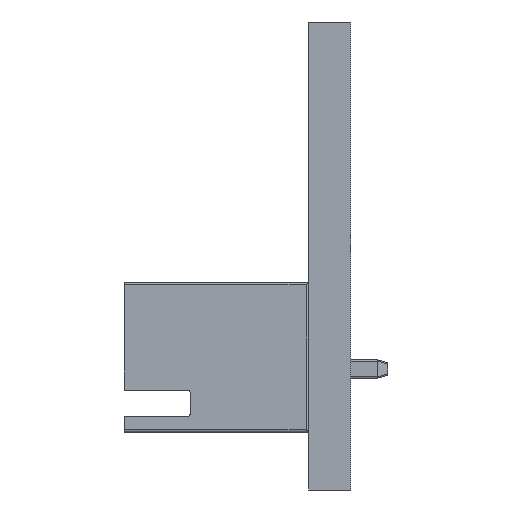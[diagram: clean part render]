
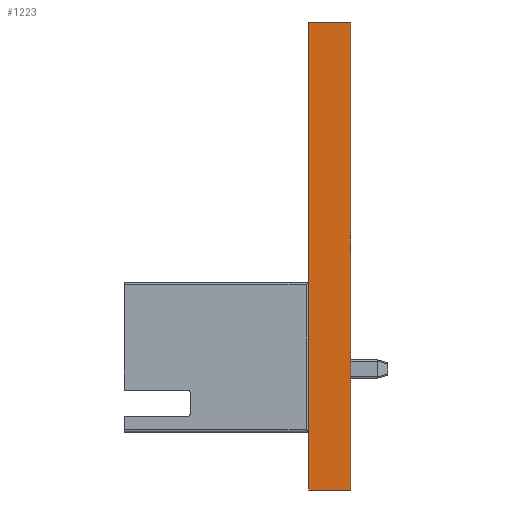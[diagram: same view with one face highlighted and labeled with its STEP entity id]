
A CAD part, left-side view. The second image highlights one B-rep face of the part: STEP entity #1223.
In plain terms, the highlighted planar face has unit normal (-1, 0, 0).
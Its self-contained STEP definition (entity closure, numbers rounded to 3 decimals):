
#47 = PLANE('',#48);
#48 = AXIS2_PLACEMENT_3D('',#49,#50,#51);
#49 = CARTESIAN_POINT('',(0.,0.,0.));
#50 = DIRECTION('',(-0.,-1.,-0.));
#51 = DIRECTION('',(0.,0.,-1.));
#160 = VERTEX_POINT('',#161);
#161 = CARTESIAN_POINT('',(-9.322,0.,8.877));
#175 = PLANE('',#176);
#176 = AXIS2_PLACEMENT_3D('',#177,#178,#179);
#177 = CARTESIAN_POINT('',(9.322,0.,8.877));
#178 = DIRECTION('',(0.,0.,1.));
#179 = DIRECTION('',(-1.,0.,0.));
#187 = EDGE_CURVE('',#160,#188,#190,.T.);
#188 = VERTEX_POINT('',#189);
#189 = CARTESIAN_POINT('',(-9.322,0.,-8.877));
#190 = SURFACE_CURVE('',#191,(#195,#202),.PCURVE_S1.);
#191 = LINE('',#192,#193);
#192 = CARTESIAN_POINT('',(-9.322,0.,8.877));
#193 = VECTOR('',#194,1.);
#194 = DIRECTION('',(0.,0.,-1.));
#195 = PCURVE('',#47,#196);
#196 = DEFINITIONAL_REPRESENTATION('',(#197),#201);
#197 = LINE('',#198,#199);
#198 = CARTESIAN_POINT('',(-8.877,-9.322));
#199 = VECTOR('',#200,1.);
#200 = DIRECTION('',(1.,0.));
#201 = ( GEOMETRIC_REPRESENTATION_CONTEXT(2) 
PARAMETRIC_REPRESENTATION_CONTEXT() REPRESENTATION_CONTEXT('2D SPACE',''
  ) );
#202 = PCURVE('',#203,#208);
#203 = PLANE('',#204);
#204 = AXIS2_PLACEMENT_3D('',#205,#206,#207);
#205 = CARTESIAN_POINT('',(-9.322,0.,8.877));
#206 = DIRECTION('',(-1.,0.,0.));
#207 = DIRECTION('',(0.,0.,-1.));
#208 = DEFINITIONAL_REPRESENTATION('',(#209),#213);
#209 = LINE('',#210,#211);
#210 = CARTESIAN_POINT('',(0.,-0.));
#211 = VECTOR('',#212,1.);
#212 = DIRECTION('',(1.,0.));
#213 = ( GEOMETRIC_REPRESENTATION_CONTEXT(2) 
PARAMETRIC_REPRESENTATION_CONTEXT() REPRESENTATION_CONTEXT('2D SPACE',''
  ) );
#229 = PLANE('',#230);
#230 = AXIS2_PLACEMENT_3D('',#231,#232,#233);
#231 = CARTESIAN_POINT('',(-9.322,0.,-8.877));
#232 = DIRECTION('',(0.,0.,-1.));
#233 = DIRECTION('',(1.,0.,0.));
#1092 = PLANE('',#1093);
#1093 = AXIS2_PLACEMENT_3D('',#1094,#1095,#1096);
#1094 = CARTESIAN_POINT('',(0.,1.6,
    0.));
#1095 = DIRECTION('',(-0.,-1.,-0.));
#1096 = DIRECTION('',(0.,0.,-1.));
#1129 = EDGE_CURVE('',#188,#1130,#1132,.T.);
#1130 = VERTEX_POINT('',#1131);
#1131 = CARTESIAN_POINT('',(-9.322,1.6,
    -8.877));
#1132 = SURFACE_CURVE('',#1133,(#1137,#1144),.PCURVE_S1.);
#1133 = LINE('',#1134,#1135);
#1134 = CARTESIAN_POINT('',(-9.322,0.,-8.877));
#1135 = VECTOR('',#1136,1.);
#1136 = DIRECTION('',(0.,1.,0.));
#1137 = PCURVE('',#229,#1138);
#1138 = DEFINITIONAL_REPRESENTATION('',(#1139),#1143);
#1139 = LINE('',#1140,#1141);
#1140 = CARTESIAN_POINT('',(0.,0.));
#1141 = VECTOR('',#1142,1.);
#1142 = DIRECTION('',(0.,-1.));
#1143 = ( GEOMETRIC_REPRESENTATION_CONTEXT(2) 
PARAMETRIC_REPRESENTATION_CONTEXT() REPRESENTATION_CONTEXT('2D SPACE',''
  ) );
#1144 = PCURVE('',#203,#1145);
#1145 = DEFINITIONAL_REPRESENTATION('',(#1146),#1150);
#1146 = LINE('',#1147,#1148);
#1147 = CARTESIAN_POINT('',(17.755,0.));
#1148 = VECTOR('',#1149,1.);
#1149 = DIRECTION('',(0.,-1.));
#1150 = ( GEOMETRIC_REPRESENTATION_CONTEXT(2) 
PARAMETRIC_REPRESENTATION_CONTEXT() REPRESENTATION_CONTEXT('2D SPACE',''
  ) );
#1180 = VERTEX_POINT('',#1181);
#1181 = CARTESIAN_POINT('',(-9.322,1.6,8.877
    ));
#1202 = EDGE_CURVE('',#160,#1180,#1203,.T.);
#1203 = SURFACE_CURVE('',#1204,(#1208,#1215),.PCURVE_S1.);
#1204 = LINE('',#1205,#1206);
#1205 = CARTESIAN_POINT('',(-9.322,0.,8.877));
#1206 = VECTOR('',#1207,1.);
#1207 = DIRECTION('',(0.,1.,0.));
#1208 = PCURVE('',#175,#1209);
#1209 = DEFINITIONAL_REPRESENTATION('',(#1210),#1214);
#1210 = LINE('',#1211,#1212);
#1211 = CARTESIAN_POINT('',(18.644,0.));
#1212 = VECTOR('',#1213,1.);
#1213 = DIRECTION('',(0.,-1.));
#1214 = ( GEOMETRIC_REPRESENTATION_CONTEXT(2) 
PARAMETRIC_REPRESENTATION_CONTEXT() REPRESENTATION_CONTEXT('2D SPACE',''
  ) );
#1215 = PCURVE('',#203,#1216);
#1216 = DEFINITIONAL_REPRESENTATION('',(#1217),#1221);
#1217 = LINE('',#1218,#1219);
#1218 = CARTESIAN_POINT('',(0.,-0.));
#1219 = VECTOR('',#1220,1.);
#1220 = DIRECTION('',(0.,-1.));
#1221 = ( GEOMETRIC_REPRESENTATION_CONTEXT(2) 
PARAMETRIC_REPRESENTATION_CONTEXT() REPRESENTATION_CONTEXT('2D SPACE',''
  ) );
#1223 = ADVANCED_FACE('',(#1224),#203,.T.);
#1224 = FACE_BOUND('',#1225,.T.);
#1225 = EDGE_LOOP('',(#1226,#1227,#1248,#1249));
#1226 = ORIENTED_EDGE('',*,*,#1202,.T.);
#1227 = ORIENTED_EDGE('',*,*,#1228,.T.);
#1228 = EDGE_CURVE('',#1180,#1130,#1229,.T.);
#1229 = SURFACE_CURVE('',#1230,(#1234,#1241),.PCURVE_S1.);
#1230 = LINE('',#1231,#1232);
#1231 = CARTESIAN_POINT('',(-9.322,1.6,8.877
    ));
#1232 = VECTOR('',#1233,1.);
#1233 = DIRECTION('',(0.,0.,-1.));
#1234 = PCURVE('',#203,#1235);
#1235 = DEFINITIONAL_REPRESENTATION('',(#1236),#1240);
#1236 = LINE('',#1237,#1238);
#1237 = CARTESIAN_POINT('',(0.,-1.6));
#1238 = VECTOR('',#1239,1.);
#1239 = DIRECTION('',(1.,0.));
#1240 = ( GEOMETRIC_REPRESENTATION_CONTEXT(2) 
PARAMETRIC_REPRESENTATION_CONTEXT() REPRESENTATION_CONTEXT('2D SPACE',''
  ) );
#1241 = PCURVE('',#1092,#1242);
#1242 = DEFINITIONAL_REPRESENTATION('',(#1243),#1247);
#1243 = LINE('',#1244,#1245);
#1244 = CARTESIAN_POINT('',(-8.877,-9.322));
#1245 = VECTOR('',#1246,1.);
#1246 = DIRECTION('',(1.,0.));
#1247 = ( GEOMETRIC_REPRESENTATION_CONTEXT(2) 
PARAMETRIC_REPRESENTATION_CONTEXT() REPRESENTATION_CONTEXT('2D SPACE',''
  ) );
#1248 = ORIENTED_EDGE('',*,*,#1129,.F.);
#1249 = ORIENTED_EDGE('',*,*,#187,.F.);
